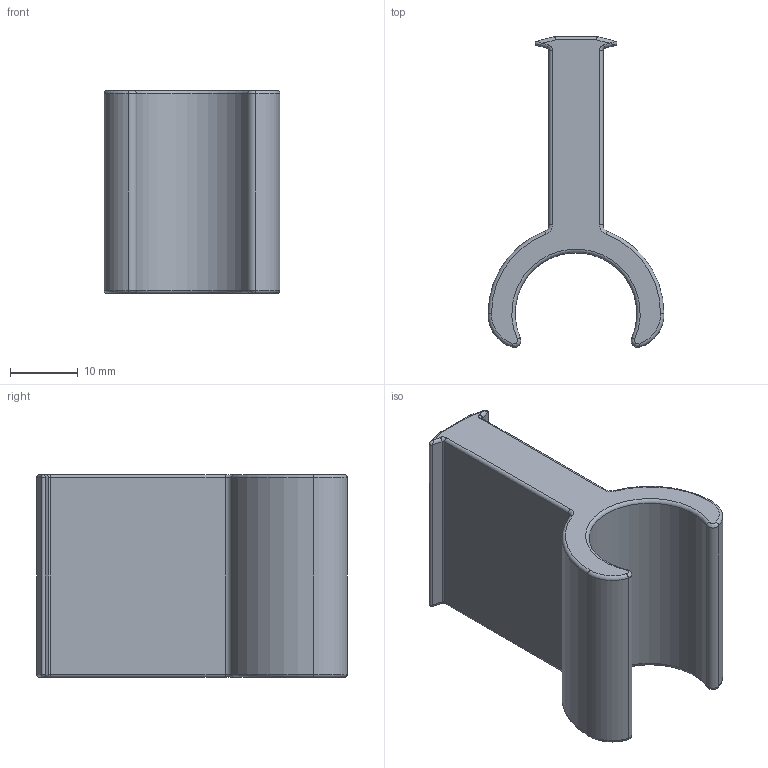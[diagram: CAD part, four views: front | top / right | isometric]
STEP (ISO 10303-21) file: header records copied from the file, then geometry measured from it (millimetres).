
FILE_DESCRIPTION(/* description */ ('GUIDE RAIL SUPPORT 41 MM'),/* implementation_level */ '2;1');
FILE_NAME(/* name */ '\\carryline.intra\privat\users\mathias\Desktop\Tillfälliga filer\300-1036.stp',/* time_stamp */ '2018-11-30T08:58:43+01:00',/* author */ ('MOB'),/* organization */ ('CARRYLINE'),/* preprocessor_version */ 'ST-DEVELOPER v17',/* originating_system */ 'Autodesk Inventor 2018',/* authorisation */ '');
FILE_SCHEMA (('AUTOMOTIVE_DESIGN { 1 0 10303 214 3 1 1 }'));
Length unit declared in the file: millimetre
Products named in the file (1): 300-1036
Bounding box: 26 x 45.94 x 30 mm (x, y, z)
Volume: 11907.9 mm3; surface area: 5554 mm2
Topology: 1 solids, 1 shells, 70 faces, 161 edges, 85 vertices
Faces by surface type: cylinder 30, torus 18, bspline 12, plane 9, cone 1
Full cylindrical faces by diameter (mm): 4 x1
Entity records: 2249 total; most frequent: CARTESIAN_POINT 666, DIRECTION 362, ORIENTED_EDGE 304, AXIS2_PLACEMENT_3D 155, EDGE_CURVE 152, VERTEX_POINT 85, CIRCLE 80, EDGE_LOOP 71
